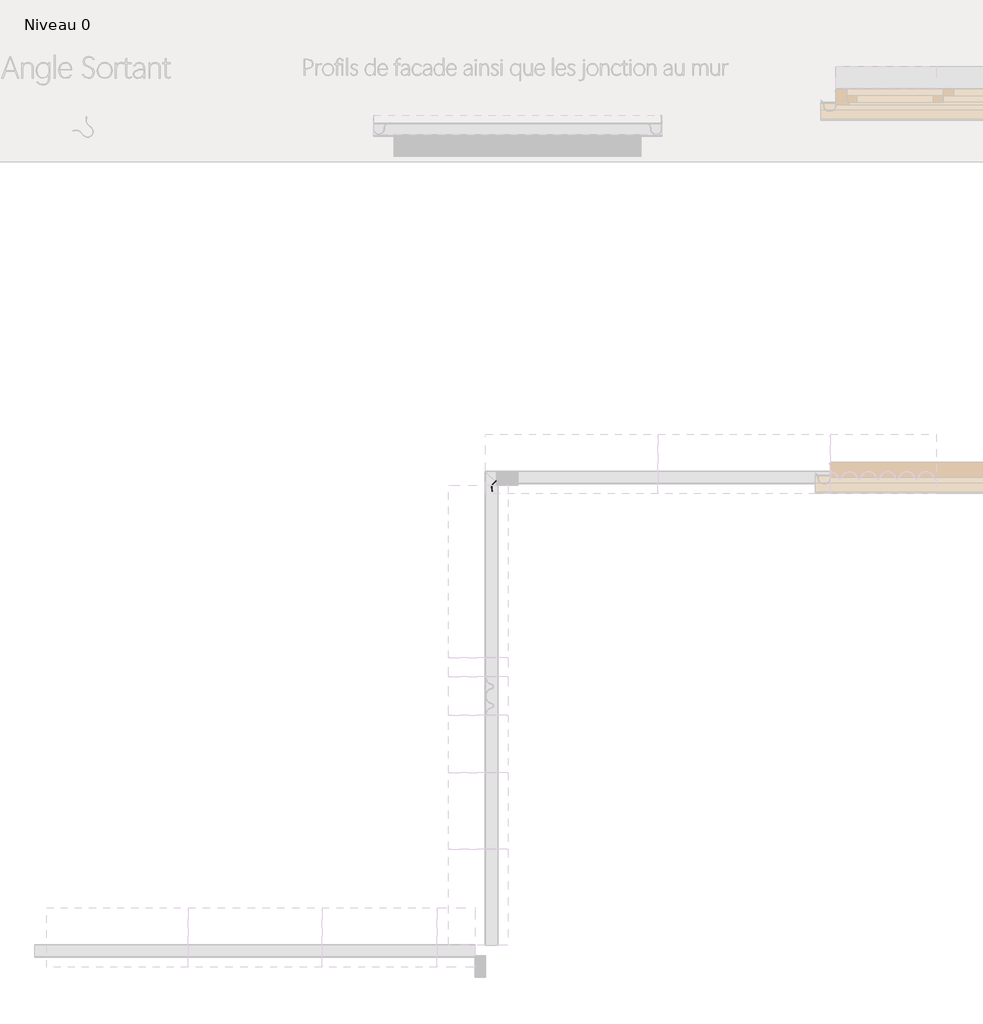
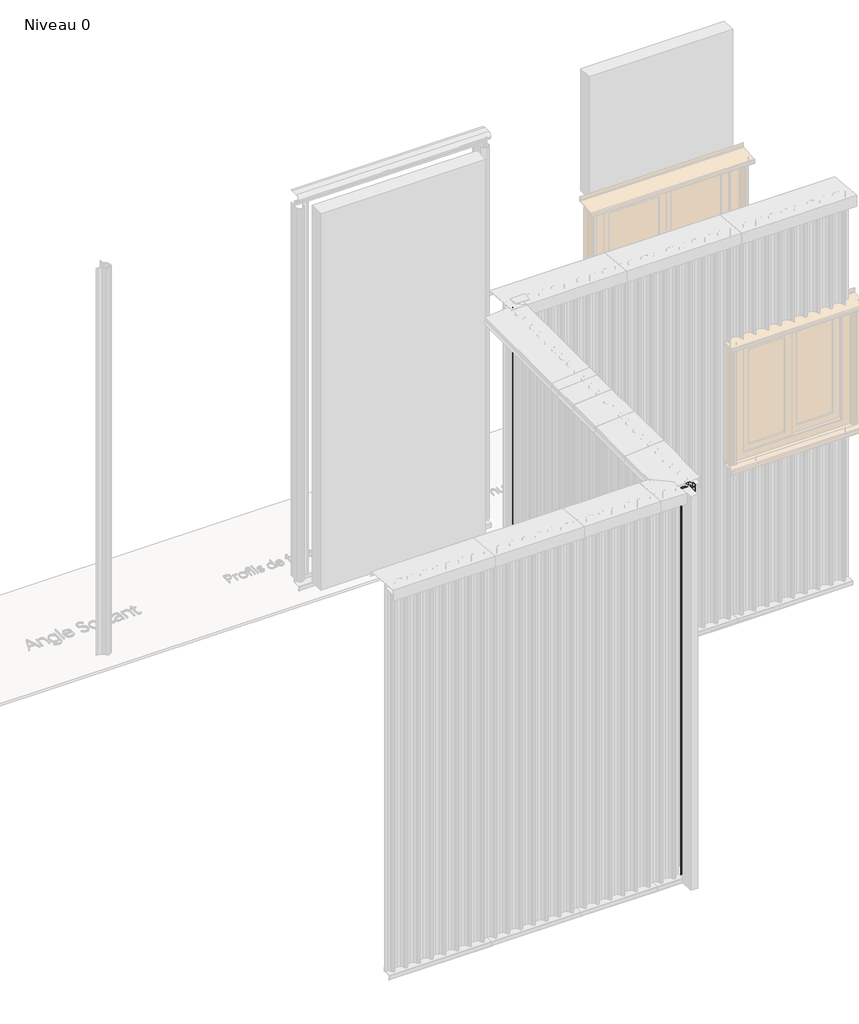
# One storey, part 4 of 11: 2 proxies.
"""IFC4 building model written with IfcOpenShell, lengths in millimetres."""

from ifc_helpers import new_model, si_unit, origin, place, context, project, spatial, transform, mapped, element, save
from components import generic_models_8bef1f62, generic_models_79ab70e4

model = new_model("IFC4")

# Units and contexts
model_context = context("Model", 3, world=origin())
ifc_project = project(units=[si_unit("LENGTHUNIT", "METRE", prefix="MILLI")], contexts=[model_context])

# Site, building, storey
site = spatial("IfcSite", under=ifc_project)
building = spatial("IfcBuilding", under=site)
storey = spatial("IfcBuildingStorey", under=building, Name="Niveau 0", Elevation=0.0)

# Proxies
placement = place(None, origin())
generic_models_shape = generic_models_8bef1f62(model_context)
element("IfcBuildingElementProxy", 1, Name="Angle sortant V : Angle sortant V", ObjectType="Angle sortant V : Angle sortant V", at=placement, inside=storey, context=model_context, shape_type="MappedRepresentation", body=[
    mapped(generic_models_shape, transform((3915.0542842, -19130.8319197, 30.7239521), x_axis=(1.0, 0.0, 0.0), y_axis=(0.0, 1.0, 0.0), z_axis=(0.0, 0.0, 1.0))),
])
generic_models_2_shape = generic_models_79ab70e4(model_context)
element("IfcBuildingElementProxy", 2, Name="Angle Rentrant V : Angle Rentrant V", ObjectType="Angle Rentrant V : Angle Rentrant V", at=placement, inside=storey, context=model_context, shape_type="MappedRepresentation", body=[
    mapped(generic_models_2_shape, transform((3887.1821942, -16910.8319197, 30.7239521), x_axis=(-1.0, 0.0, 0.0), y_axis=(0.0, -1.0, 0.0), z_axis=(0.0, 0.0, 1.0))),
])

save(model, "model.ifc")
